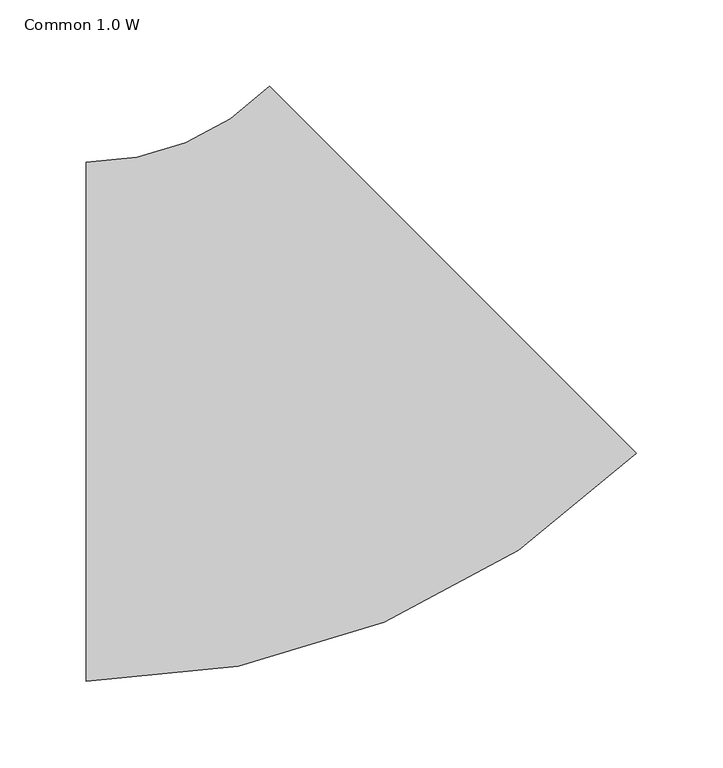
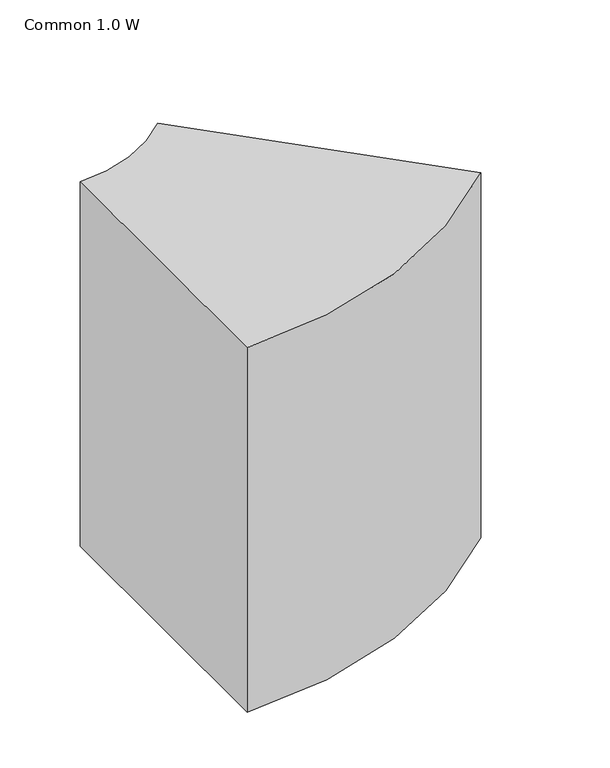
"""IFC4 building model written with IfcOpenShell, lengths in millimetres: duct fitting geometry, 011_角型エルボ - 半径 : Common 1.0 W."""

from ifc_helpers import new_model, si_unit, point, frame, frame_2d, origin, place, context, project, spatial, polyline, circle_curve, trimmed, segment, composite_curve, outline, extrude, source, transform, mapped, element, save


def common_1_0_w_32d719c2(model_context):
    return source(origin(), model_context, "Body", "SweptSolid", [
        extrude(outline(composite_curve([segment(trimmed(circle_curve(frame_2d((-124.2640687, 300.0)), 450.0), [point((193.9339828, -18.1980515))], [point((-124.2640687, -150.0))], False, "CARTESIAN"), True, "CONTINUOUS"), segment(polyline([(-124.2640687, -150.0), (-124.2640687, 150.0)]), True, "CONTINUOUS"), segment(trimmed(circle_curve(frame_2d((-124.2640687, 300.0)), 150.0), [point((-124.2640687, 150.0))], [point((-18.1980515, 193.9339828))], True, "CARTESIAN"), True, "CONTINUOUS"), segment(polyline([(-18.1980515, 193.9339828), (193.9339828, -18.1980515)]), True, "CONTINUOUS")], self_intersect=False)), frame((0.0, 0.0, -200.0), z_axis=(0.0, 0.0, 1.0), x_axis=(1.0, 0.0, 0.0)), (0.0, 0.0, 1.0), 400.0),
    ])


if __name__ == "__main__":
    model = new_model("IFC4")
    model_context = context("Model", 3, world=origin())
    ifc_project = project(units=[si_unit("LENGTHUNIT", "METRE", prefix="MILLI")], contexts=[model_context])
    site = spatial("IfcSite", under=ifc_project)
    building = spatial("IfcBuilding", under=site)
    placement = place(None, origin())
    common_1_0_w_shape = common_1_0_w_32d719c2(model_context)
    element("IfcDuctFitting", 1, ObjectType="011_角型エルボ - 半径 : Common 1.0 W", at=placement, inside=building, context=model_context, shape_type="MappedRepresentation", body=[
        mapped(common_1_0_w_shape, transform((0.0, 0.0, 0.0), x_axis=(1.0, 0.0, 0.0), y_axis=(0.0, 1.0, 0.0), z_axis=(0.0, 0.0, 1.0))),
    ])
    save(model, "model.ifc")
